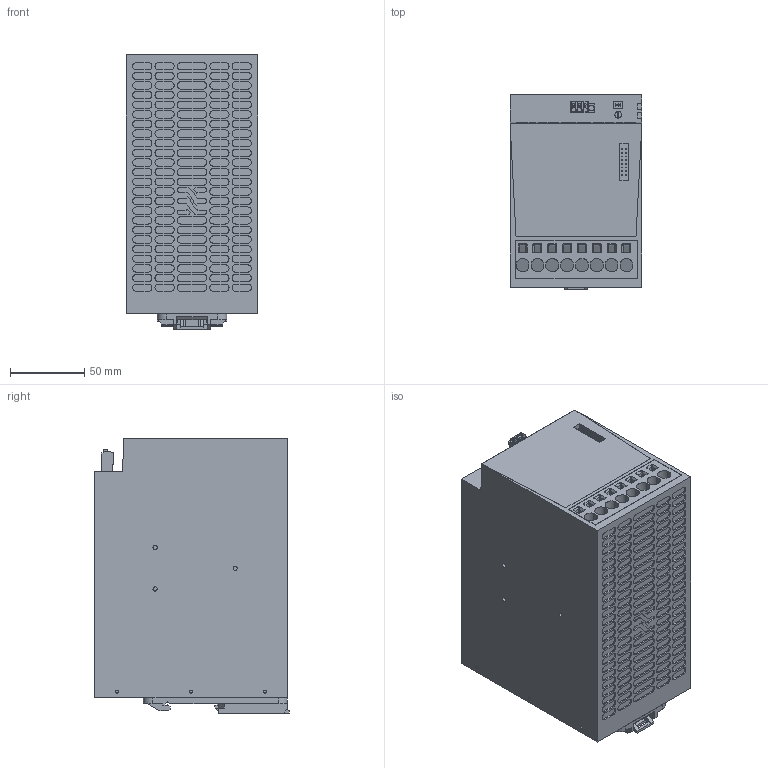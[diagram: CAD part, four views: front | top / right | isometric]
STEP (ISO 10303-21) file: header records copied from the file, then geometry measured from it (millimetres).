
FILE_DESCRIPTION(('CATIA V5 STEP Exchange','CAx-IF Rec.Pracs.--- Model Styling and Organization---1.4--- 2014-01-23'),'2;1');
FILE_NAME('\\SRVDE107\Germany\WMC\1_WMC_Input\A_Bruentrup\2467120000.stp','2018-10-26T09:06:04+00:00',('none'),('none'),'CATIA Version 5-6 Release 2016 SP3 HF44','CATIA V5 STEP AP214','none');
FILE_SCHEMA(('AUTOMOTIVE_DESIGN { 1 0 10303 214 1 1 1 1 }'));
Products named in the file (1): 2467120000
Bounding box: 89 x 131.2 x 185.2 mm (x, y, z)
Volume: 1982981.4 mm3; surface area: 143584.3 mm2
Topology: 33 solids, 33 shells, 1930 faces, 4831 edges, 3249 vertices
Faces by surface type: plane 1324, cylinder 354, extrusion 230, bspline 16, cone 6
Entity records: 62292 total; most frequent: CARTESIAN_POINT 18772, ORIENTED_EDGE 9662, DIRECTION 6012, EDGE_CURVE 4823, VECTOR 3520, LINE 3290, VERTEX_POINT 3239, EDGE_LOOP 2216
